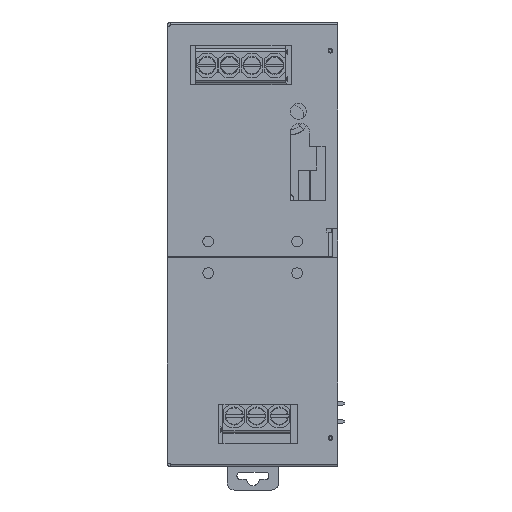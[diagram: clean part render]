
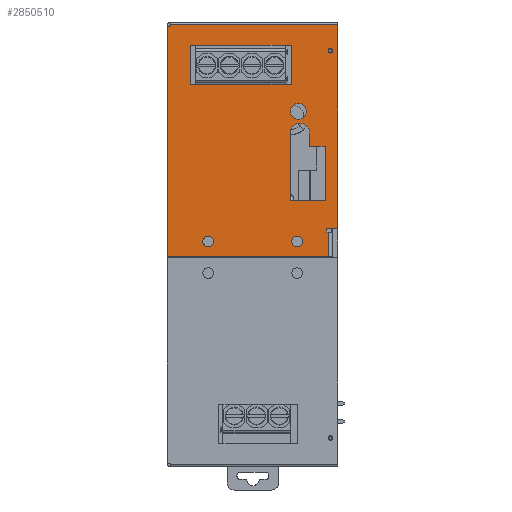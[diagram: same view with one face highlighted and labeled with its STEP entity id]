
A CAD part, left-side view. The second image highlights one B-rep face of the part: STEP entity #2850510.
In plain terms, the highlighted planar face has unit normal (-1, 0, 0).
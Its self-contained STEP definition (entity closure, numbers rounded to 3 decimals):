
#2793100=CARTESIAN_POINT('',(-36.647,26.449,
67.202));
#2793110=VERTEX_POINT('',#2793100);
#2793140=CARTESIAN_POINT('',(-36.647,25.786,
67.202));
#2793150=DIRECTION('',(-1.,0.,0.));
#2793160=DIRECTION('',(0.,1.,0.));
#2793170=AXIS2_PLACEMENT_3D('',#2793140,#2793150,#2793160);
#2793180=CIRCLE('',#2793170,0.662);
#2793190=CARTESIAN_POINT('',(-36.647,25.124,
67.202));
#2793200=VERTEX_POINT('',#2793190);
#2793210=EDGE_CURVE('',#2793200,#2793110,#2793180,.T.);
#2795100=CARTESIAN_POINT('',(-36.647,65.236,
57.7));
#2795110=VERTEX_POINT('',#2795100);
#2795280=CARTESIAN_POINT('',(-36.647,36.836,
57.7));
#2795290=VERTEX_POINT('',#2795280);
#2795320=CARTESIAN_POINT('',(-36.647,0.,57.7));
#2795330=DIRECTION('',(0.,1.,0.));
#2795340=VECTOR('',#2795330,1.);
#2795350=LINE('',#2795320,#2795340);
#2795360=EDGE_CURVE('',#2795290,#2795110,#2795350,.T.);
#2799290=CARTESIAN_POINT('',(-36.647,23.686,
17.2));
#2799300=VERTEX_POINT('',#2799290);
#2799330=CARTESIAN_POINT('',(-36.647,23.686,0.));
#2799340=DIRECTION('',(0.,0.,-1.));
#2799350=VECTOR('',#2799340,1.);
#2799360=LINE('',#2799330,#2799350);
#2799370=CARTESIAN_POINT('',(-36.647,23.686,
74.55));
#2799380=VERTEX_POINT('',#2799370);
#2799390=EDGE_CURVE('',#2799380,#2799300,#2799360,.T.);
#2803930=CARTESIAN_POINT('',(-36.647,26.786,
17.2));
#2803940=VERTEX_POINT('',#2803930);
#2804110=CARTESIAN_POINT('',(-36.647,26.786,
16.2));
#2804120=VERTEX_POINT('',#2804110);
#2804150=CARTESIAN_POINT('',(-36.647,26.786,
-3.851));
#2804160=DIRECTION('',(0.,0.,1.));
#2804170=VECTOR('',#2804160,1.);
#2804180=LINE('',#2804150,#2804170);
#2804190=EDGE_CURVE('',#2804120,#2803940,#2804180,.T.);
#2806560=CARTESIAN_POINT('',(-36.647,70.686,
74.55));
#2806570=VERTEX_POINT('',#2806560);
#2806690=CARTESIAN_POINT('',(-36.647,0.,74.55));
#2806700=DIRECTION('',(0.,1.,0.));
#2806710=VECTOR('',#2806700,1.);
#2806720=LINE('',#2806690,#2806710);
#2806730=EDGE_CURVE('',#2799380,#2806570,#2806720,.T.);
#2809790=CARTESIAN_POINT('',(-36.647,31.986,
92.23));
#2809800=DIRECTION('',(-1.,0.,0.));
#2809810=DIRECTION('',(0.,0.,1.));
#2809820=AXIS2_PLACEMENT_3D('',#2809790,#2809800,#2809810);
#2809830=PLANE('',#2809820);
#2818560=CARTESIAN_POINT('',(-36.647,0.,17.2));
#2818570=DIRECTION('',(0.,-1.,0.));
#2818580=VECTOR('',#2818570,1.);
#2818590=LINE('',#2818560,#2818580);
#2818600=EDGE_CURVE('',#2803940,#2799300,#2818590,.T.);
#2824570=CARTESIAN_POINT('',(-36.647,36.836,0.));
#2824580=DIRECTION('',(0.,0.,-1.));
#2824590=VECTOR('',#2824580,1.);
#2824600=LINE('',#2824570,#2824590);
#2824610=CARTESIAN_POINT('',(-36.647,36.836,
68.7));
#2824620=VERTEX_POINT('',#2824610);
#2824630=EDGE_CURVE('',#2824620,#2795290,#2824600,.T.);
#2829100=CARTESIAN_POINT('',(-36.647,37.136,
25.012));
#2829110=VERTEX_POINT('',#2829100);
#2829140=CARTESIAN_POINT('',(-36.647,37.136,
-3.501));
#2829150=DIRECTION('',(0.,0.,1.));
#2829160=VECTOR('',#2829150,1.);
#2829170=LINE('',#2829140,#2829160);
#2829180=CARTESIAN_POINT('',(-36.647,37.136,
44.047));
#2829190=VERTEX_POINT('',#2829180);
#2829200=EDGE_CURVE('',#2829110,#2829190,#2829170,.T.);
#2829820=CARTESIAN_POINT('',(-36.647,32.549,
50.137));
#2829830=VERTEX_POINT('',#2829820);
#2829990=CARTESIAN_POINT('',(-36.647,37.049,
50.137));
#2830000=VERTEX_POINT('',#2829990);
#2830030=CARTESIAN_POINT('',(-36.647,34.799,
50.137));
#2830040=DIRECTION('',(-1.,0.,0.));
#2830050=DIRECTION('',(0.,1.,0.));
#2830060=AXIS2_PLACEMENT_3D('',#2830030,#2830040,#2830050);
#2830070=CIRCLE('',#2830060,2.25);
#2830080=EDGE_CURVE('',#2829830,#2830000,#2830070,.T.);
#2833870=CARTESIAN_POINT('',(-36.647,27.286,
40.376));
#2833880=VERTEX_POINT('',#2833870);
#2833910=CARTESIAN_POINT('',(-36.647,27.286,0.));
#2833920=DIRECTION('',(0.,0.,-1.));
#2833930=VECTOR('',#2833920,1.);
#2833940=LINE('',#2833910,#2833930);
#2833950=CARTESIAN_POINT('',(-36.647,27.286,
25.012));
#2833960=VERTEX_POINT('',#2833950);
#2833970=EDGE_CURVE('',#2833880,#2833960,#2833940,.T.);
#2841570=CARTESIAN_POINT('',(-36.647,65.236,0.));
#2841580=DIRECTION('',(0.,0.,1.));
#2841590=VECTOR('',#2841580,1.);
#2841600=LINE('',#2841570,#2841590);
#2841610=CARTESIAN_POINT('',(-36.647,65.236,
68.7));
#2841620=VERTEX_POINT('',#2841610);
#2841630=EDGE_CURVE('',#2795110,#2841620,#2841600,.T.);
#2842240=CARTESIAN_POINT('',(-36.647,26.286,
16.2));
#2842250=VERTEX_POINT('',#2842240);
#2842280=CARTESIAN_POINT('',(-36.647,26.786,
16.2));
#2842290=DIRECTION('',(0.,-1.,0.));
#2842300=VECTOR('',#2842290,1.);
#2842310=LINE('',#2842280,#2842300);
#2842320=EDGE_CURVE('',#2804120,#2842250,#2842310,.T.);
#2843630=CARTESIAN_POINT('',(-36.647,0.,68.7));
#2843640=DIRECTION('',(0.,-1.,0.));
#2843650=VECTOR('',#2843640,1.);
#2843660=LINE('',#2843630,#2843650);
#2843670=EDGE_CURVE('',#2841620,#2824620,#2843660,.T.);
#2849000=CARTESIAN_POINT('',(-36.647,71.686,0.));
#2849010=DIRECTION('',(0.,0.,1.));
#2849020=VECTOR('',#2849010,1.);
#2849030=LINE('',#2849000,#2849020);
#2849040=CARTESIAN_POINT('',(-36.647,71.686,
9.2));
#2849050=VERTEX_POINT('',#2849040);
#2849060=CARTESIAN_POINT('',(-36.647,71.686,
73.3));
#2849070=VERTEX_POINT('',#2849060);
#2849080=EDGE_CURVE('',#2849050,#2849070,#2849030,.T.);
#2849350=CARTESIAN_POINT('',(-36.647,34.386,
44.047));
#2849360=DIRECTION('',(-1.,0.,0.));
#2849370=DIRECTION('',(0.,1.,0.));
#2849380=AXIS2_PLACEMENT_3D('',#2849350,#2849360,#2849370);
#2849390=CIRCLE('',#2849380,2.75);
#2849400=CARTESIAN_POINT('',(-36.647,31.636,
44.047));
#2849410=VERTEX_POINT('',#2849400);
#2849420=EDGE_CURVE('',#2849410,#2829190,#2849390,.T.);
#2849430=ORIENTED_EDGE('',*,*,#2849420,.F.);
#2849440=ORIENTED_EDGE('',*,*,#2829200,.T.);
#2849450=CARTESIAN_POINT('',(-36.647,37.136,
25.012));
#2849460=DIRECTION('',(0.,-1.,0.));
#2849470=VECTOR('',#2849460,1.);
#2849480=LINE('',#2849450,#2849470);
#2849490=EDGE_CURVE('',#2829110,#2833960,#2849480,.T.);
#2849500=ORIENTED_EDGE('',*,*,#2849490,.F.);
#2849510=ORIENTED_EDGE('',*,*,#2833970,.T.);
#2849520=CARTESIAN_POINT('',(-36.647,0.,40.376));
#2849530=DIRECTION('',(0.,-1.,0.));
#2849540=VECTOR('',#2849530,1.);
#2849550=LINE('',#2849520,#2849540);
#2849560=CARTESIAN_POINT('',(-36.647,31.636,
40.376));
#2849570=VERTEX_POINT('',#2849560);
#2849580=EDGE_CURVE('',#2849570,#2833880,#2849550,.T.);
#2849590=ORIENTED_EDGE('',*,*,#2849580,.T.);
#2849600=CARTESIAN_POINT('',(-36.647,31.636,
-3.501));
#2849610=DIRECTION('',(0.,0.,-1.));
#2849620=VECTOR('',#2849610,1.);
#2849630=LINE('',#2849600,#2849620);
#2849640=EDGE_CURVE('',#2849410,#2849570,#2849630,.T.);
#2849650=ORIENTED_EDGE('',*,*,#2849640,.T.);
#2849660=EDGE_LOOP('',(#2849650,#2849590,#2849510,#2849500,#2849440,
#2849430));
#2849670=FACE_BOUND('',#2849660,.T.);
#2849680=CARTESIAN_POINT('',(-36.647,35.186,
13.55));
#2849690=DIRECTION('',(1.,0.,0.));
#2849700=DIRECTION('',(0.,0.,1.));
#2849710=AXIS2_PLACEMENT_3D('',#2849680,#2849690,#2849700);
#2849720=CIRCLE('',#2849710,1.5);
#2849730=CARTESIAN_POINT('',(-36.647,35.186,
15.05));
#2849740=VERTEX_POINT('',#2849730);
#2849750=CARTESIAN_POINT('',(-36.647,35.186,
12.05));
#2849760=VERTEX_POINT('',#2849750);
#2849770=EDGE_CURVE('',#2849740,#2849760,#2849720,.T.);
#2849780=ORIENTED_EDGE('',*,*,#2849770,.T.);
#2849790=EDGE_CURVE('',#2849760,#2849740,#2849720,.T.);
#2849800=ORIENTED_EDGE('',*,*,#2849790,.T.);
#2849810=EDGE_LOOP('',(#2849800,#2849780));
#2849820=FACE_BOUND('',#2849810,.T.);
#2849830=CARTESIAN_POINT('',(-36.647,60.186,
13.55));
#2849840=DIRECTION('',(1.,0.,0.));
#2849850=DIRECTION('',(0.,0.,1.));
#2849860=AXIS2_PLACEMENT_3D('',#2849830,#2849840,#2849850);
#2849870=CIRCLE('',#2849860,1.5);
#2849880=CARTESIAN_POINT('',(-36.647,60.186,
15.05));
#2849890=VERTEX_POINT('',#2849880);
#2849900=CARTESIAN_POINT('',(-36.647,60.186,
12.05));
#2849910=VERTEX_POINT('',#2849900);
#2849920=EDGE_CURVE('',#2849890,#2849910,#2849870,.T.);
#2849930=ORIENTED_EDGE('',*,*,#2849920,.T.);
#2849940=EDGE_CURVE('',#2849910,#2849890,#2849870,.T.);
#2849950=ORIENTED_EDGE('',*,*,#2849940,.T.);
#2849960=EDGE_LOOP('',(#2849950,#2849930));
#2849970=FACE_BOUND('',#2849960,.T.);
#2849980=EDGE_CURVE('',#2793110,#2793200,#2793180,.T.);
#2849990=ORIENTED_EDGE('',*,*,#2849980,.F.);
#2850000=ORIENTED_EDGE('',*,*,#2793210,.F.);
#2850010=EDGE_LOOP('',(#2850000,#2849990));
#2850020=FACE_BOUND('',#2850010,.T.);
#2850030=EDGE_CURVE('',#2830000,#2829830,#2830070,.T.);
#2850040=ORIENTED_EDGE('',*,*,#2850030,.F.);
#2850050=ORIENTED_EDGE('',*,*,#2830080,.F.);
#2850060=EDGE_LOOP('',(#2850050,#2850040));
#2850070=FACE_BOUND('',#2850060,.T.);
#2850080=ORIENTED_EDGE('',*,*,#2841630,.T.);
#2850090=ORIENTED_EDGE('',*,*,#2795360,.T.);
#2850100=ORIENTED_EDGE('',*,*,#2824630,.T.);
#2850110=ORIENTED_EDGE('',*,*,#2843670,.T.);
#2850120=EDGE_LOOP('',(#2850110,#2850100,#2850090,#2850080));
#2850130=FACE_BOUND('',#2850120,.T.);
#2850140=CARTESIAN_POINT('',(-36.647,0.,9.2));
#2850150=DIRECTION('',(0.,-1.,0.));
#2850160=VECTOR('',#2850150,1.);
#2850170=LINE('',#2850140,#2850160);
#2850180=CARTESIAN_POINT('',(-36.647,26.286,
9.2));
#2850190=VERTEX_POINT('',#2850180);
#2850200=EDGE_CURVE('',#2849050,#2850190,#2850170,.T.);
#2850210=ORIENTED_EDGE('',*,*,#2850200,.T.);
#2850220=ORIENTED_EDGE('',*,*,#2849080,.F.);
#2850230=CARTESIAN_POINT('',(-36.647,70.686,
73.3));
#2850240=DIRECTION('',(-1.,0.,0.));
#2850250=DIRECTION('',(0.,1.,0.));
#2850260=AXIS2_PLACEMENT_3D('',#2850230,#2850240,#2850250);
#2850270=CIRCLE('',#2850260,1.);
#2850280=CARTESIAN_POINT('',(-36.647,70.686,
74.3));
#2850290=VERTEX_POINT('',#2850280);
#2850300=EDGE_CURVE('',#2850290,#2849070,#2850270,.T.);
#2850310=ORIENTED_EDGE('',*,*,#2850300,.T.);
#2850320=CARTESIAN_POINT('',(-36.647,70.686,0.));
#2850330=DIRECTION('',(0.,0.,-1.));
#2850340=VECTOR('',#2850330,1.);
#2850350=LINE('',#2850320,#2850340);
#2850360=EDGE_CURVE('',#2806570,#2850290,#2850350,.T.);
#2850370=ORIENTED_EDGE('',*,*,#2850360,.T.);
#2850380=ORIENTED_EDGE('',*,*,#2806730,.T.);
#2850390=ORIENTED_EDGE('',*,*,#2799390,.F.);
#2850400=ORIENTED_EDGE('',*,*,#2818600,.T.);
#2850410=ORIENTED_EDGE('',*,*,#2804190,.T.);
#2850420=ORIENTED_EDGE('',*,*,#2842320,.F.);
#2850430=CARTESIAN_POINT('',(-36.647,26.286,0.));
#2850440=DIRECTION('',(0.,0.,-1.));
#2850450=VECTOR('',#2850440,1.);
#2850460=LINE('',#2850430,#2850450);
#2850470=EDGE_CURVE('',#2842250,#2850190,#2850460,.T.);
#2850480=ORIENTED_EDGE('',*,*,#2850470,.F.);
#2850490=EDGE_LOOP('',(#2850480,#2850420,#2850410,#2850400,#2850390,
#2850380,#2850370,#2850310,#2850220,#2850210));
#2850500=FACE_OUTER_BOUND('',#2850490,.T.);
#2850510=ADVANCED_FACE('',(#2849670,#2849820,#2849970,#2850020,#2850070,
#2850130,#2850500),#2809830,.T.);
